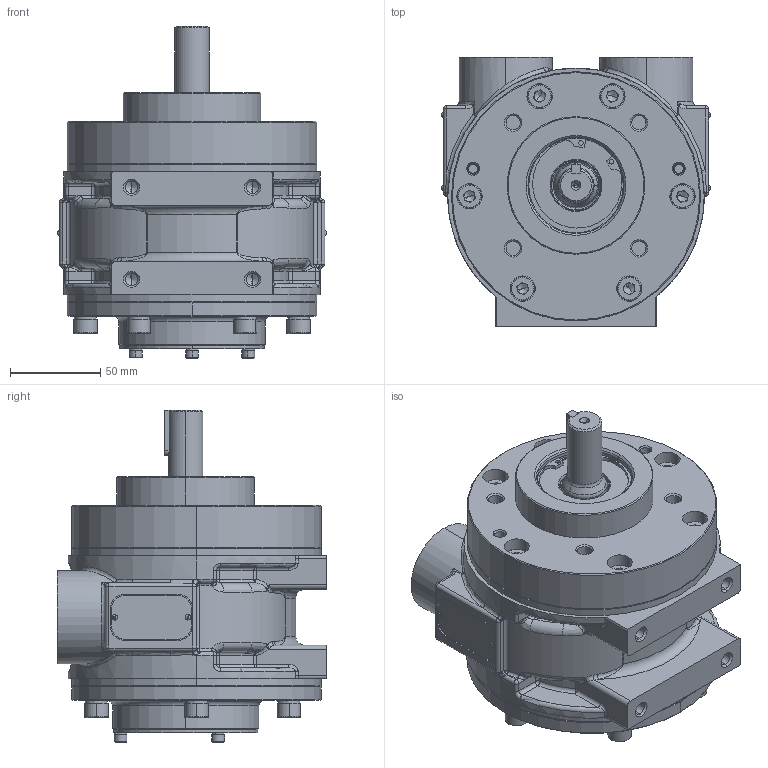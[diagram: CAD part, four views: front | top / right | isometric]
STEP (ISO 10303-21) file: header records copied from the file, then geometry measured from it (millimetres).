
FILE_DESCRIPTION (( 'STEP AP214' ), '1' );
FILE_NAME ('8VML-Face (Alu. End Plates)_23-04-26.STEP', '2026-04-24T08:04:54', ( '' ), ( '' ), 'SwSTEP 2.0', 'SolidWorks 2017', '' );
FILE_SCHEMA (( 'AUTOMOTIVE_DESIGN' ));
Length unit declared in the file: millimetre
Products named in the file (2): 8VML-Face (Alu. End Plates)_23-04-26
Bounding box: 148.6 x 149 x 183.85 mm (x, y, z)
Volume: 318941.5 mm3; surface area: 235421.4 mm2
Topology: 44 solids, 45 shells, 1453 faces, 3413 edges, 1978 vertices
Faces by surface type: cylinder 461, plane 432, cone 219, torus 157, bspline 152, sphere 32
Entity records: 385587 total; most frequent: CARTESIAN_POINT 198807, ORIENTED_EDGE 29146, DIRECTION 20205, EDGE_CURVE 14573, VERTEX_POINT 9366, EDGE_LOOP 8491, AXIS2_PLACEMENT_3D 7472, B_SPLINE_CURVE_WITH_KNOTS 6956
